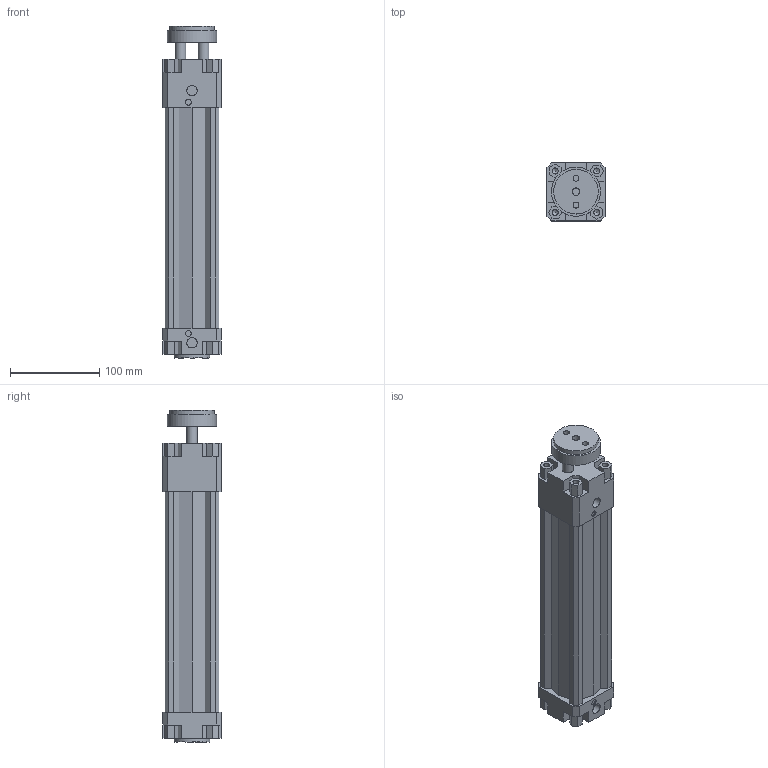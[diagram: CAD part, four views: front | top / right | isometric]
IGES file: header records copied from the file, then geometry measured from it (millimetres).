
Global section: file name: 134#_050_0200_01; native system: Autodesk Inventor 2014; preprocessor: unknown; author: A. Manieri; date: 20161006.164339; units: millimetre
Bounding box: 65 x 65 x 372 mm (x, y, z)
Volume: 767799.8 mm3; surface area: 191466.2 mm2
Topology: 2 solids, 2 shells, 180 faces, 492 edges, 336 vertices
Faces by surface type: bspline 180
